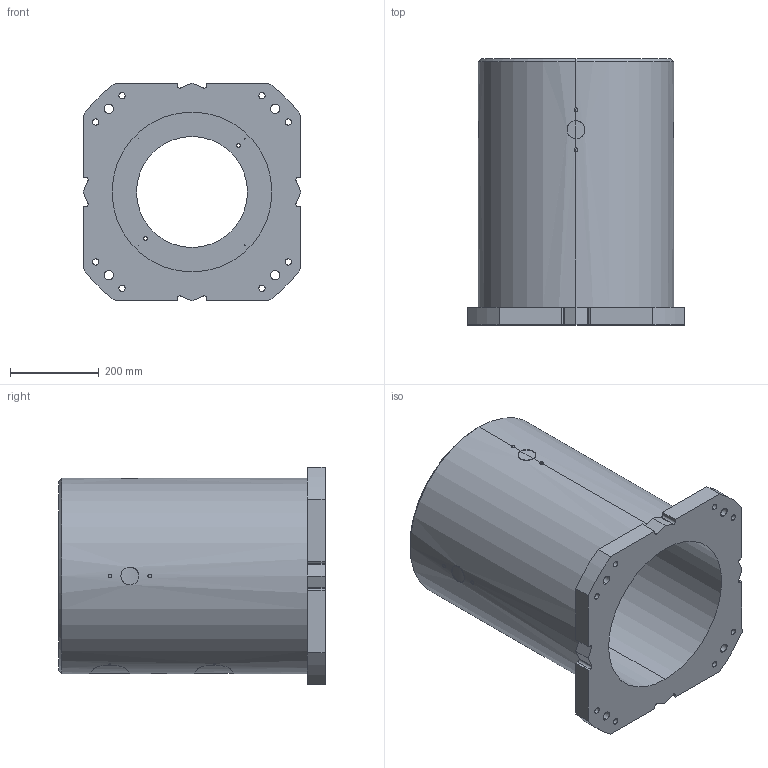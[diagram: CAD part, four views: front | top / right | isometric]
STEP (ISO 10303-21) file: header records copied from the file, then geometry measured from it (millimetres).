
FILE_DESCRIPTION (( 'STEP AP214' ), '1' );
FILE_NAME ('G-600.STEP', '2025-12-05T13:11:37', ( '' ), ( '' ), 'SwSTEP 2.0', 'SolidWorks 2022', '' );
FILE_SCHEMA (( 'AUTOMOTIVE_DESIGN' ));
Length unit declared in the file: millimetre
Products named in the file (1): G-600
Bounding box: 490 x 600 x 490 mm (x, y, z)
Volume: 35015823.7 mm3; surface area: 1896485.6 mm2
Topology: 1 solids, 1 shells, 175 faces, 473 edges, 308 vertices
Faces by surface type: cylinder 113, plane 28, bspline 24, cone 10
Entity records: 11310 total; most frequent: CARTESIAN_POINT 6415, ORIENTED_EDGE 930, DIRECTION 741, EDGE_CURVE 465, VERTEX_POINT 308, AXIS2_PLACEMENT_3D 278, EDGE_LOOP 221, VECTOR 185
